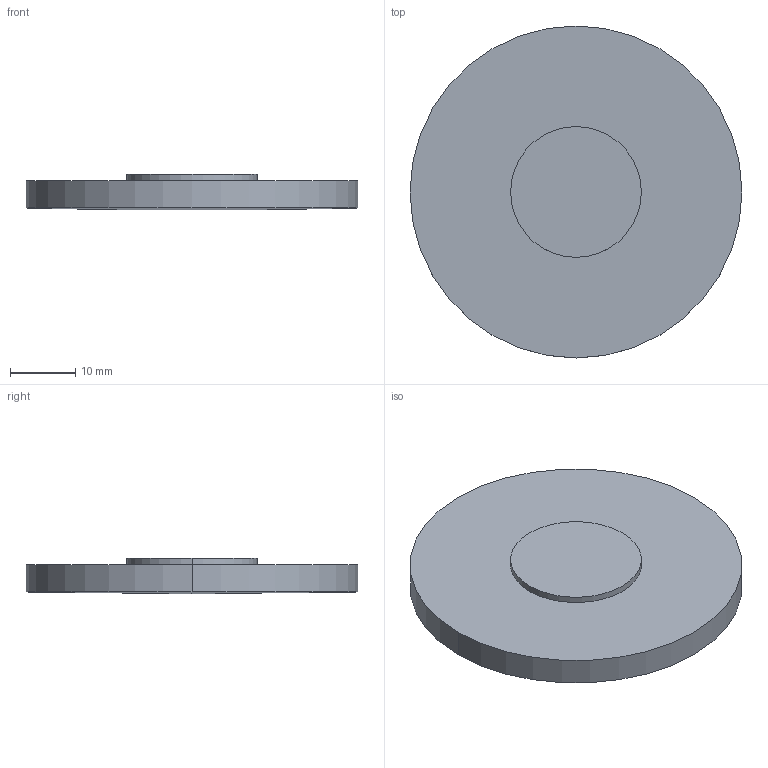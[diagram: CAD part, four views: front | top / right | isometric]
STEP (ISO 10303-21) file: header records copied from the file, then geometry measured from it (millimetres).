
FILE_DESCRIPTION(('STEP AP214'),'1');
FILE_NAME('LLZ-51760.STEP','2020-03-09T17:42:40',(' '),(' '),'Spatial InterOp 3D',' ',' ');
FILE_SCHEMA(('AUTOMOTIVE_DESIGN { 1 0 10303 214 1 1 1 1 }'));
Length unit declared in the file: millimetre
Products named in the file (1): 1
Bounding box: 50.8 x 50.8 x 5.5 mm (x, y, z)
Volume: 9126.6 mm3; surface area: 5414.7 mm2
Topology: 2 solids, 2 shells, 9 faces, 16 edges, 9 vertices
Faces by surface type: cylinder 4, plane 3, sphere 2
Entity records: 229 total; most frequent: DIRECTION 46, CARTESIAN_POINT 34, ORIENTED_EDGE 28, AXIS2_PLACEMENT_3D 21, EDGE_CURVE 14, CIRCLE 10, ADVANCED_FACE 9, FACE_OUTER_BOUND 9
